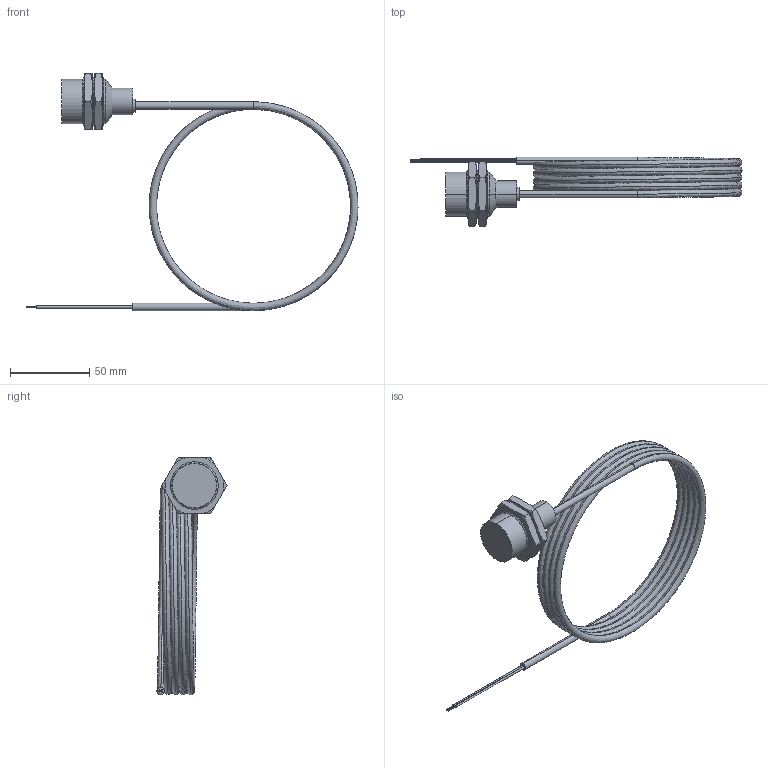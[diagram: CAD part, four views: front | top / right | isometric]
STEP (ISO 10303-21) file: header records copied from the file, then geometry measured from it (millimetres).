
FILE_DESCRIPTION (( 'STEP AP203' ), '1' );
FILE_NAME ('90-XXXX-030.STEP', '2015-10-28T13:21:19', ( 'Sam' ), ( 'Spade' ), 'SwSTEP 2.0', 'SolidWorks 2002296', '' );
FILE_SCHEMA (( 'CONFIG_CONTROL_DESIGN' ));
Length unit declared in the file: inch
Products named in the file (14): 90-XXXX-030; Imported303; Imported302; Imported292; Imported298; Imported297; Imported293; Imported295; Imported296; Imported300; Imported299; Imported294; Imported301; 49-9062
Assembly tree (13 placements, depth 2):
  90-XXXX-030
    Imported301
    Imported292
    Imported295
    Imported294
    Imported303
    Imported297
    Imported300
    Imported298
    Imported293
    49-9062
    Imported299
    Imported302
    Imported296
Bounding box: 209.35 x 44.19 x 149.71 mm (x, y, z)
Volume: 60578.4 mm3; surface area: 43088.3 mm2
Topology: 13 solids, 13 shells, 233 faces, 484 edges, 290 vertices
Faces by surface type: cone 80, bspline 52, plane 51, cylinder 50
Entity records: 10044 total; most frequent: CARTESIAN_POINT 3763, DIRECTION 1028, ORIENTED_EDGE 968, EDGE_CURVE 484, AXIS2_PLACEMENT_3D 431, VERTEX_POINT 290, EDGE_LOOP 252, CIRCLE 234
